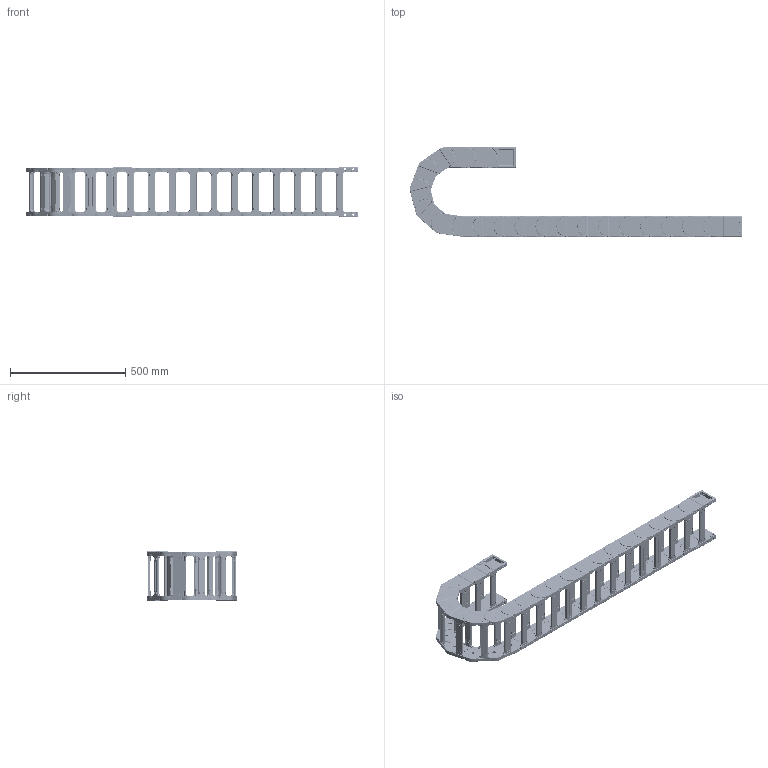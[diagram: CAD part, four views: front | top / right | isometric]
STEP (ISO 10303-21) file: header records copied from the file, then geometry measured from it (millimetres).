
FILE_DESCRIPTION (( 'STEP AP214' ), '1' );
FILE_NAME ('J60Q.1.175S-3D賦凳芞.STEP', '2019-01-10T01:12:24', ( 'Sky123.Org' ), ( 'Sky123.Org' ), 'SwSTEP 2.0', 'SolidWorks 2017', '' );
FILE_SCHEMA (( 'AUTOMOTIVE_DESIGN' ));
Length unit declared in the file: millimetre
Products named in the file (10): J60Q.1.100S-桥式-外接头; J60Q.1-源諉芛-W; J60Q.1.100S-桥式-内接头; 臏簽12X9; J60Q.1-源諉芛-N; J60Q.1.100S-桥式-单节主体; J60-H80-100結え; J60Q.1-翋极-R-2018.3.30; J60Q.1-翋极-L-2018.3.30; J60Q.1.175S-3D賦凳芞
Assembly tree (57 placements, depth 3):
  J60Q.1.175S-3D賦凳芞
    J60Q.1.100S-桥式-单节主体  x19
      J60Q.1-翋极-L-2018.3.30
      J60Q.1-翋极-R-2018.3.30
      J60-H80-100結え
    J60Q.1.100S-桥式-内接头
      J60Q.1-源諉芛-N  x2
      J60-H80-100結え  x2
      臏簽12X9  x12
    J60Q.1.100S-桥式-外接头
      J60Q.1-源諉芛-W  x2
      J60-H80-100結え  x2
      臏簽12X9  x12
Bounding box: 1442.11 x 388.53 x 215 mm (x, y, z)
Volume: 7568083.2 mm3; surface area: 2482823 mm2
Topology: 108 solids, 148 shells, 19975 faces, 52506 edges, 33104 vertices
Faces by surface type: plane 9891, cylinder 6288, bspline 1518, torus 1288, sphere 778, cone 212
Entity records: 36164 total; most frequent: CARTESIAN_POINT 8515, ORIENTED_EDGE 4950, DIRECTION 4876, EDGE_CURVE 2475, AXIS2_PLACEMENT_3D 1648, VERTEX_POINT 1583, VECTOR 1580, LINE 1580
